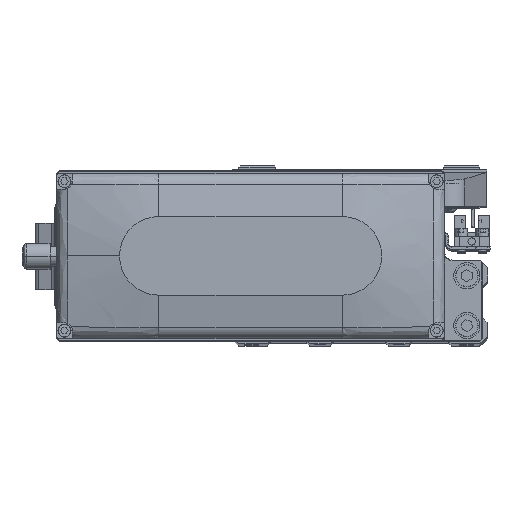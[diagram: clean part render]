
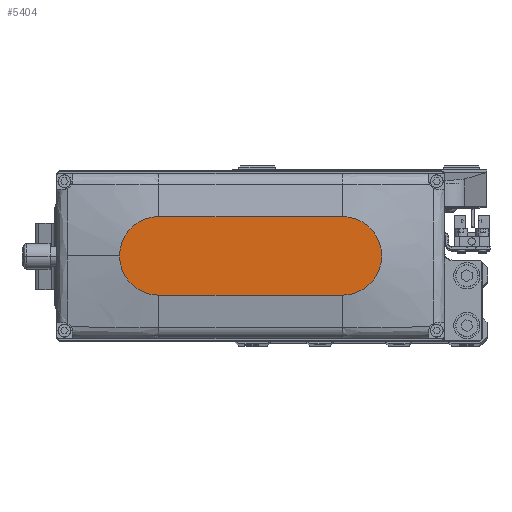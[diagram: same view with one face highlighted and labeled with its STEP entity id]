
A CAD part, top view. The second image highlights one B-rep face of the part: STEP entity #5404.
In plain terms, the highlighted planar face has unit normal (0, 0, 1).
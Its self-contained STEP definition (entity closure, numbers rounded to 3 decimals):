
#1433 = CARTESIAN_POINT ( 'NONE',  ( 50., 0., 35. ) ) ;
#2221 = VECTOR ( 'NONE', #23341, 1000. ) ;
#2357 = AXIS2_PLACEMENT_3D ( 'NONE', #25110, #38773, #8051 ) ;
#2649 = DIRECTION ( 'NONE',  ( 1., 0., 0. ) ) ;
#3020 = EDGE_LOOP ( 'NONE', ( #14897, #6048, #43388, #23117, #40174 ) ) ;
#3488 = CARTESIAN_POINT ( 'NONE',  ( 35., 0., 35. ) ) ;
#3791 = AXIS2_PLACEMENT_3D ( 'NONE', #39038, #8308, #21985 ) ;
#5404 = ADVANCED_FACE ( 'NONE', ( #11690 ), #25381, .T. ) ;
#6048 = ORIENTED_EDGE ( 'NONE', *, *, #39087, .T. ) ;
#7950 = DIRECTION ( 'NONE',  ( -1., 0., 0. ) ) ;
#8051 = DIRECTION ( 'NONE',  ( 1., 0., 0. ) ) ;
#8308 = DIRECTION ( 'NONE',  ( 0., 0., 1. ) ) ;
#9125 = CIRCLE ( 'NONE', #34207, 15. ) ;
#9658 = CARTESIAN_POINT ( 'NONE',  ( -35., -15., 35. ) ) ;
#9860 = CIRCLE ( 'NONE', #34970, 15. ) ;
#11690 = FACE_OUTER_BOUND ( 'NONE', #3020, .T. ) ;
#12945 = VERTEX_POINT ( 'NONE', #28770 ) ;
#14897 = ORIENTED_EDGE ( 'NONE', *, *, #28048, .T. ) ;
#15674 = CARTESIAN_POINT ( 'NONE',  ( -35., 15., 35. ) ) ;
#17003 = CARTESIAN_POINT ( 'NONE',  ( 35., 15., 35. ) ) ;
#17191 = DIRECTION ( 'NONE',  ( 0., 0., 1. ) ) ;
#19704 = CARTESIAN_POINT ( 'NONE',  ( -35., 0., 35. ) ) ;
#20577 = CARTESIAN_POINT ( 'NONE',  ( -35., -15., 35. ) ) ;
#20673 = EDGE_CURVE ( 'NONE', #12945, #21495, #21701, .T. ) ;
#21495 = VERTEX_POINT ( 'NONE', #1433 ) ;
#21701 = CIRCLE ( 'NONE', #2357, 15. ) ;
#21985 = DIRECTION ( 'NONE',  ( 1., 0., 0. ) ) ;
#23117 = ORIENTED_EDGE ( 'NONE', *, *, #20673, .T. ) ;
#23341 = DIRECTION ( 'NONE',  ( 1., 0., 0. ) ) ;
#24442 = VECTOR ( 'NONE', #7950, 1000. ) ;
#25000 = LINE ( 'NONE', #38666, #24442 ) ;
#25110 = CARTESIAN_POINT ( 'NONE',  ( 35., 0., 35. ) ) ;
#25381 = PLANE ( 'NONE',  #3791 ) ;
#28048 = EDGE_CURVE ( 'NONE', #37765, #40519, #25000, .T. ) ;
#28770 = CARTESIAN_POINT ( 'NONE',  ( 35., -15., 35. ) ) ;
#30908 = DIRECTION ( 'NONE',  ( 1., 0., 0. ) ) ;
#33415 = DIRECTION ( 'NONE',  ( 0., 0., 1. ) ) ;
#33894 = EDGE_CURVE ( 'NONE', #21495, #37765, #9860, .T. ) ;
#34207 = AXIS2_PLACEMENT_3D ( 'NONE', #19704, #33415, #2649 ) ;
#34970 = AXIS2_PLACEMENT_3D ( 'NONE', #3488, #17191, #30908 ) ;
#37215 = EDGE_CURVE ( 'NONE', #42031, #12945, #40376, .T. ) ;
#37765 = VERTEX_POINT ( 'NONE', #17003 ) ;
#38666 = CARTESIAN_POINT ( 'NONE',  ( -35., 15., 35. ) ) ;
#38773 = DIRECTION ( 'NONE',  ( 0., 0., 1. ) ) ;
#39038 = CARTESIAN_POINT ( 'NONE',  ( 0., 0., 35. ) ) ;
#39087 = EDGE_CURVE ( 'NONE', #40519, #42031, #9125, .T. ) ;
#40174 = ORIENTED_EDGE ( 'NONE', *, *, #33894, .T. ) ;
#40376 = LINE ( 'NONE', #9658, #2221 ) ;
#40519 = VERTEX_POINT ( 'NONE', #15674 ) ;
#42031 = VERTEX_POINT ( 'NONE', #20577 ) ;
#43388 = ORIENTED_EDGE ( 'NONE', *, *, #37215, .T. ) ;
